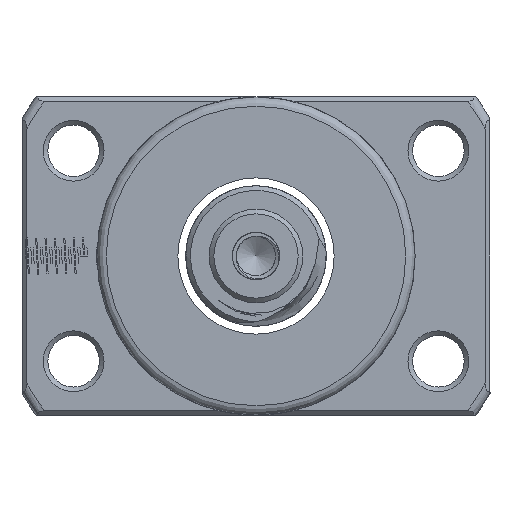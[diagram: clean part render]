
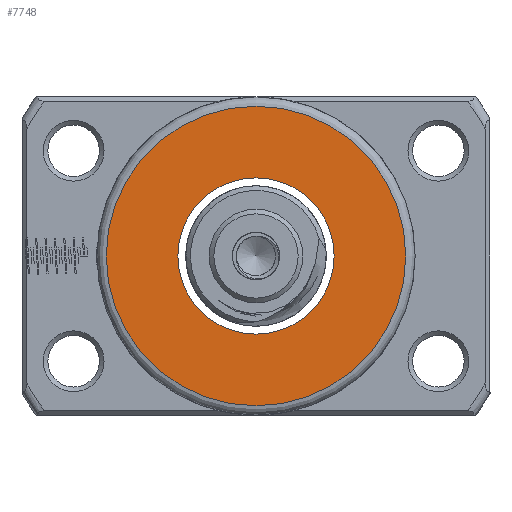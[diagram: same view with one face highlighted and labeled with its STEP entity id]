
A CAD part, left-side view. The second image highlights one B-rep face of the part: STEP entity #7748.
In plain terms, the highlighted planar face has unit normal (-1, 0, 0).
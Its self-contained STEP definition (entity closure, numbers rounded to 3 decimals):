
#1006 = AXIS2_PLACEMENT_3D ( 'NONE', #7955, #4002, #2076 ) ;
#1656 = CIRCLE ( 'NONE', #2284, 16. ) ;
#1925 = DIRECTION ( 'NONE',  ( 0., 0., 1. ) ) ;
#2076 = DIRECTION ( 'NONE',  ( 0., 0., 1. ) ) ;
#2284 = AXIS2_PLACEMENT_3D ( 'NONE', #10597, #5110, #16457 ) ;
#4002 = DIRECTION ( 'NONE',  ( -1., 0., 0. ) ) ;
#4372 = EDGE_LOOP ( 'NONE', ( #10150 ) ) ;
#5110 = DIRECTION ( 'NONE',  ( -1., 0., 0. ) ) ;
#5225 = CARTESIAN_POINT ( 'NONE',  ( -53.324, 0., 16. ) ) ;
#7748 = ADVANCED_FACE ( 'NONE', ( #9871, #16793 ), #18517, .T. ) ;
#7955 = CARTESIAN_POINT ( 'NONE',  ( -53.324, 8.35, 0. ) ) ;
#9726 = ORIENTED_EDGE ( 'NONE', *, *, #14590, .F. ) ;
#9871 = FACE_OUTER_BOUND ( 'NONE', #4372, .T. ) ;
#10150 = ORIENTED_EDGE ( 'NONE', *, *, #15387, .T. ) ;
#10597 = CARTESIAN_POINT ( 'NONE',  ( -53.324, 0., 0. ) ) ;
#10980 = DIRECTION ( 'NONE',  ( -1., 0., 0. ) ) ;
#11201 = AXIS2_PLACEMENT_3D ( 'NONE', #17991, #10980, #1925 ) ;
#12820 = CARTESIAN_POINT ( 'NONE',  ( -53.324, 0., 8.35 ) ) ;
#13975 = VERTEX_POINT ( 'NONE', #12820 ) ;
#14129 = EDGE_LOOP ( 'NONE', ( #9726 ) ) ;
#14590 = EDGE_CURVE ( 'NONE', #13975, #13975, #18859, .T. ) ;
#15387 = EDGE_CURVE ( 'NONE', #18487, #18487, #1656, .T. ) ;
#16457 = DIRECTION ( 'NONE',  ( 0., 0., 1. ) ) ;
#16793 = FACE_BOUND ( 'NONE', #14129, .T. ) ;
#17991 = CARTESIAN_POINT ( 'NONE',  ( -53.324, 0., 0. ) ) ;
#18487 = VERTEX_POINT ( 'NONE', #5225 ) ;
#18517 = PLANE ( 'NONE',  #1006 ) ;
#18859 = CIRCLE ( 'NONE', #11201, 8.35 ) ;
